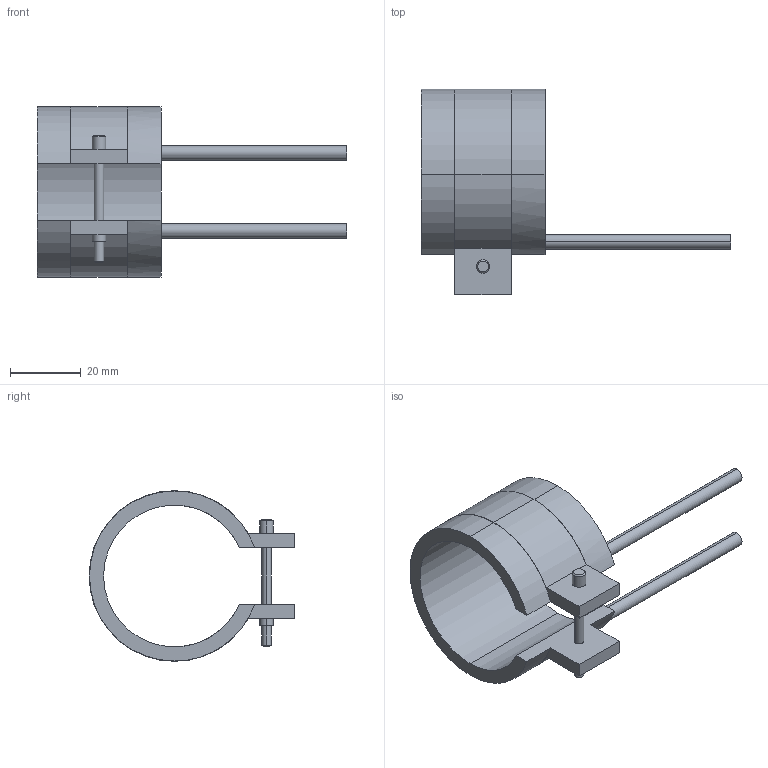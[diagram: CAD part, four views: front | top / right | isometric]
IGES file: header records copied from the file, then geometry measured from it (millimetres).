
Start section: START RECORD GO HERE.
Global section: file name: 14040035.igs; native system: DASSAULT SYSTEMES CATIA V5 R20 - www.3ds.com; preprocessor: CATIA Version 5 Release 20 ; author: Utente; organization: NB04-ASUS; date: 20210331.133030; units: millimetre
Bounding box: 87.5 x 58.1 x 48.2 mm (x, y, z)
Surface area: 12364.8 mm2 (no closed solid volume)
Topology: 0 solids, 0 shells, 45 faces, 232 edges, 232 vertices
Faces by surface type: revolution 28, plane 17
